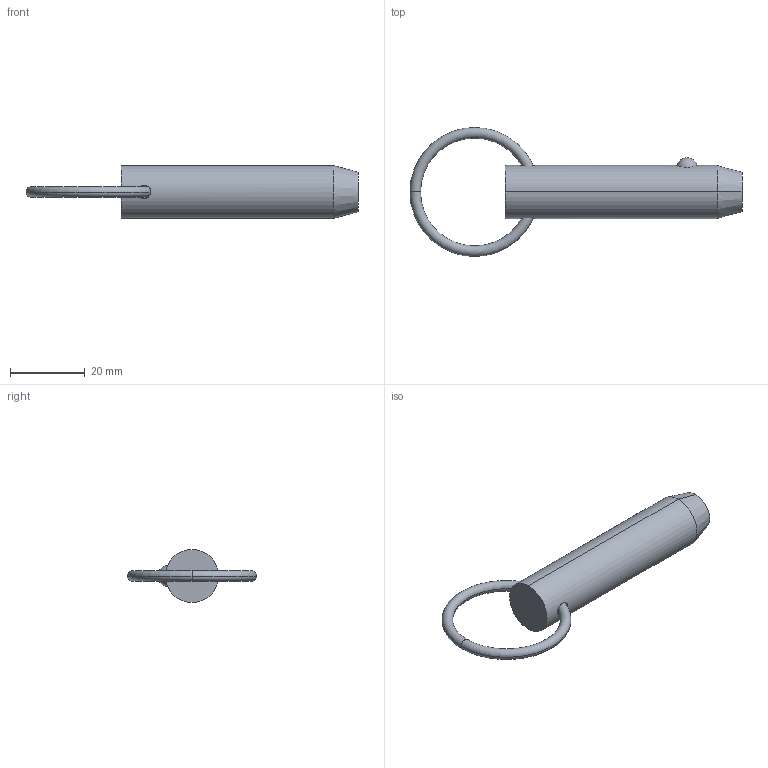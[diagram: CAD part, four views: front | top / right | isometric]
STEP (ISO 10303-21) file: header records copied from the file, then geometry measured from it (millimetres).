
FILE_DESCRIPTION (( 'STEP AP203' ), '1' );
FILE_NAME ('33010.W5615.step', '2024-11-01T10:39:41', ( '' ), ( '' ), 'SwSTEP 2.0', 'SolidWorks 2019', '' );
FILE_SCHEMA (( 'CONFIG_CONTROL_DESIGN' ));
Length unit declared in the file: millimetre
Products named in the file (3): Part1_33010.W5615; 33010.W5615; Part2_33010.W5615
Assembly tree (2 placements, depth 2):
  33010.W5615
    Part1_33010.W5615
    Part2_33010.W5615
Bounding box: 89 x 34.59 x 14.22 mm (x, y, z)
Volume: 10359.1 mm3; surface area: 4103.8 mm2
Topology: 2 solids, 2 shells, 16 faces, 31 edges, 18 vertices
Faces by surface type: torus 8, sphere 2, cone 2, cylinder 2, plane 2
Entity records: 875 total; most frequent: CARTESIAN_POINT 232, DIRECTION 88, ORIENTED_EDGE 62, AXIS2_PLACEMENT_3D 42, EDGE_CURVE 31, PERSON_AND_ORGANIZATION 26, CIRCLE 21, LOCAL_TIME 19
